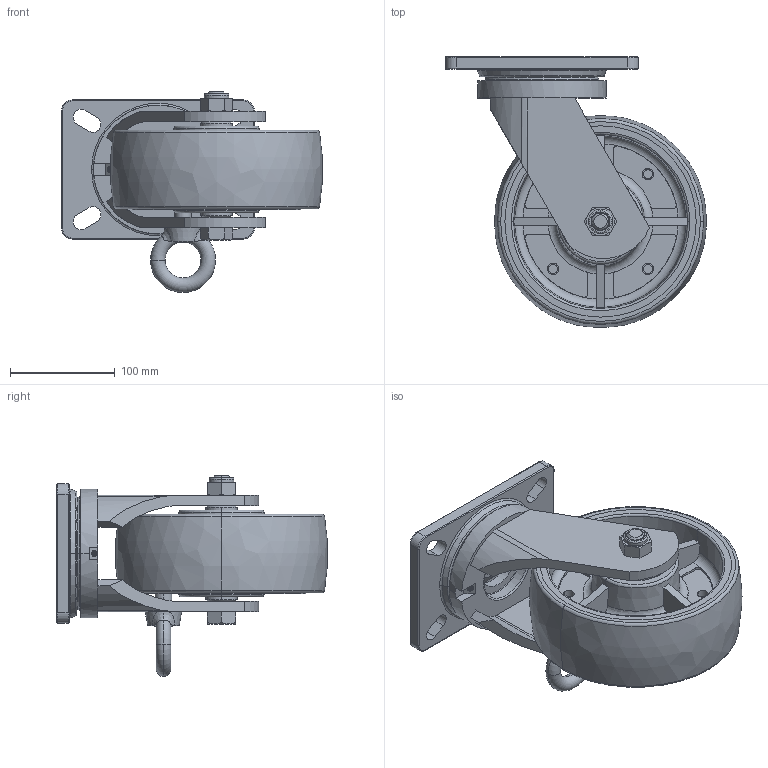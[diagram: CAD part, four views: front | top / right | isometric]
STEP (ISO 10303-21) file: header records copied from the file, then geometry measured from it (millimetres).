
FILE_DESCRIPTION((''),'2;1');
FILE_NAME('93128C-938-86A-C_ASM_1_ASM','2023-09-26T',('lenovo'),(''),'PRO/ENGINEER BY PARAMETRIC TECHNOLOGY CORPORATION, 2010280','PRO/ENGINEER BY PARAMETRIC TECHNOLOGY CORPORATION, 2010280','');
FILE_SCHEMA(('CONFIG_CONTROL_DESIGN'));
Length unit declared in the file: millimetre
Products named in the file (13): 9310-201_1; MANIFOLD_SOLID_BREP_3611; MANIFOLD_SOLID_BREP_4084; 938C12_7_ASM; 930C03_1; 938-986A_2; 930-54_1; 9338-422_2; 938-86A_ASM_1_ASM; LUODING_2; 930-33_1; 930-34_3; 93128C-938-86A-C_ASM_1_ASM
Assembly tree (12 placements, depth 3):
  93128C-938-86A-C_ASM_1_ASM
    9310-201_1
    938C12_7_ASM
      MANIFOLD_SOLID_BREP_3611
      MANIFOLD_SOLID_BREP_4084
    930C03_1
    938-86A_ASM_1_ASM
      938-986A_2
      930-54_1
      9338-422_2
    LUODING_2
    930-33_1
    930-34_3
Bounding box: 249.16 x 258.65 x 192 mm (x, y, z)
Volume: 1756092.1 mm3; surface area: 508687.2 mm2
Topology: 9 solids, 12 shells, 665 faces, 1793 edges, 1178 vertices
Faces by surface type: cylinder 292, plane 193, torus 68, bspline 60, cone 52
Entity records: 39065 total; most frequent: CARTESIAN_POINT 22666, ORIENTED_EDGE 3570, DIRECTION 3137, EDGE_CURVE 1793, AXIS2_PLACEMENT_3D 1245, VERTEX_POINT 1178, EDGE_LOOP 733, FACE_OUTER_BOUND 665
